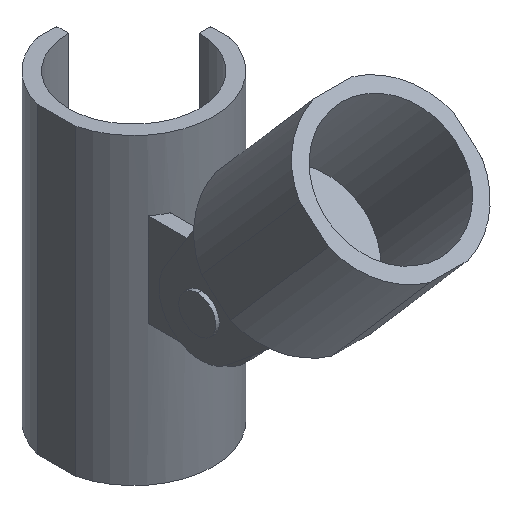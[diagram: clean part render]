
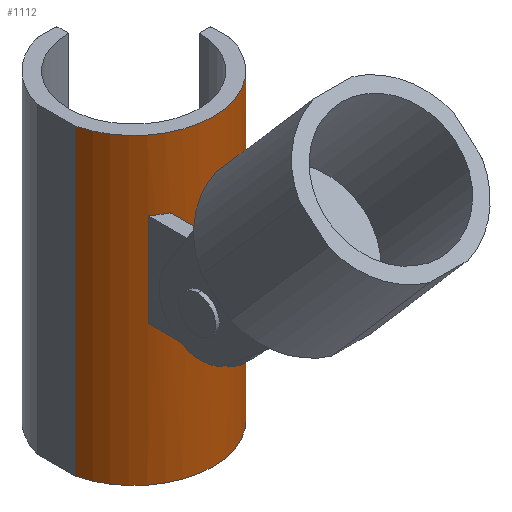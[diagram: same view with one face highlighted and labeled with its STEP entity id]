
A CAD part, isometric view. The second image highlights one B-rep face of the part: STEP entity #1112.
In plain terms, the highlighted cylindrical face has radius 17 mm (diameter 34 mm), a partial arc.
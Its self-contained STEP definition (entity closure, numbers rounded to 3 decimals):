
#21 = CARTESIAN_POINT ( 'NONE',  ( 10.4, -13.448, 10. ) ) ;
#28 = LINE ( 'NONE', #1366, #687 ) ;
#50 = DIRECTION ( 'NONE',  ( 0., 0., 1. ) ) ;
#56 = VERTEX_POINT ( 'NONE', #1358 ) ;
#64 = DIRECTION ( 'NONE',  ( 0., 0., -1. ) ) ;
#71 = DIRECTION ( 'NONE',  ( 0., 0., -1. ) ) ;
#72 = EDGE_CURVE ( 'NONE', #891, #1566, #1669, .T. ) ;
#111 = EDGE_CURVE ( 'NONE', #1364, #1303, #28, .T. ) ;
#146 = ORIENTED_EDGE ( 'NONE', *, *, #627, .T. ) ;
#159 = VERTEX_POINT ( 'NONE', #1842 ) ;
#190 = EDGE_CURVE ( 'NONE', #56, #1303, #1120, .T. ) ;
#212 = LINE ( 'NONE', #809, #856 ) ;
#237 = VERTEX_POINT ( 'NONE', #854 ) ;
#258 = EDGE_LOOP ( 'NONE', ( #1675, #1263, #469, #1428, #1665, #146, #1202, #1192, #1023, #1563, #807, #1468 ) ) ;
#266 = CARTESIAN_POINT ( 'NONE',  ( 16.5, -4.093, -40. ) ) ;
#276 = ORIENTED_EDGE ( 'NONE', *, *, #823, .F. ) ;
#281 = VERTEX_POINT ( 'NONE', #997 ) ;
#291 = LINE ( 'NONE', #895, #850 ) ;
#303 = VERTEX_POINT ( 'NONE', #863 ) ;
#312 = CIRCLE ( 'NONE', #1092, 17. ) ;
#317 = CARTESIAN_POINT ( 'NONE',  ( 10.4, -13.448, 10. ) ) ;
#325 = CARTESIAN_POINT ( 'NONE',  ( -7.4, -15.305, -40. ) ) ;
#333 = CARTESIAN_POINT ( 'NONE',  ( 10.4, -13.448, -10. ) ) ;
#337 = EDGE_CURVE ( 'NONE', #1296, #281, #1014, .T. ) ;
#346 = AXIS2_PLACEMENT_3D ( 'NONE', #1915, #879, #585 ) ;
#347 = DIRECTION ( 'NONE',  ( -1., 0., 0. ) ) ;
#348 = CIRCLE ( 'NONE', #352, 17. ) ;
#352 = AXIS2_PLACEMENT_3D ( 'NONE', #813, #825, #347 ) ;
#360 = CARTESIAN_POINT ( 'NONE',  ( 0., 0., -10. ) ) ;
#371 = DIRECTION ( 'NONE',  ( 0., 0., -1. ) ) ;
#376 = FACE_OUTER_BOUND ( 'NONE', #1477, .T. ) ;
#401 = EDGE_CURVE ( 'NONE', #902, #159, #291, .T. ) ;
#408 = AXIS2_PLACEMENT_3D ( 'NONE', #1118, #371, #520 ) ;
#416 = CIRCLE ( 'NONE', #346, 17. ) ;
#432 = ORIENTED_EDGE ( 'NONE', *, *, #1693, .T. ) ;
#451 = DIRECTION ( 'NONE',  ( 0., 0., -1. ) ) ;
#469 = ORIENTED_EDGE ( 'NONE', *, *, #1728, .T. ) ;
#476 = CARTESIAN_POINT ( 'NONE',  ( -16.5, -4.093, -40. ) ) ;
#516 = CYLINDRICAL_SURFACE ( 'NONE', #886, 17. ) ;
#520 = DIRECTION ( 'NONE',  ( -1., 0., 0. ) ) ;
#527 = CARTESIAN_POINT ( 'NONE',  ( 0., 0., 10. ) ) ;
#567 = AXIS2_PLACEMENT_3D ( 'NONE', #360, #71, #650 ) ;
#585 = DIRECTION ( 'NONE',  ( 1., 0., 0. ) ) ;
#596 = DIRECTION ( 'NONE',  ( 0., 0., 1. ) ) ;
#601 = EDGE_CURVE ( 'NONE', #1039, #237, #312, .T. ) ;
#619 = DIRECTION ( 'NONE',  ( 0., 0., -1. ) ) ;
#627 = EDGE_CURVE ( 'NONE', #1334, #891, #1275, .T. ) ;
#648 = CARTESIAN_POINT ( 'NONE',  ( 0., 0., 10. ) ) ;
#650 = DIRECTION ( 'NONE',  ( 1., 0., 0. ) ) ;
#658 = FACE_BOUND ( 'NONE', #258, .T. ) ;
#666 = DIRECTION ( 'NONE',  ( 0., 0., 1. ) ) ;
#671 = DIRECTION ( 'NONE',  ( -1., 0., 0. ) ) ;
#687 = VECTOR ( 'NONE', #619, 1000. ) ;
#693 = DIRECTION ( 'NONE',  ( 1., 0., 0. ) ) ;
#719 = EDGE_CURVE ( 'NONE', #1566, #1938, #728, .T. ) ;
#728 = CIRCLE ( 'NONE', #1631, 17. ) ;
#775 = LINE ( 'NONE', #1653, #947 ) ;
#807 = ORIENTED_EDGE ( 'NONE', *, *, #401, .F. ) ;
#809 = CARTESIAN_POINT ( 'NONE',  ( 7.4, -15.305, -40. ) ) ;
#813 = CARTESIAN_POINT ( 'NONE',  ( 0., 0., -10. ) ) ;
#823 = EDGE_CURVE ( 'NONE', #281, #303, #416, .T. ) ;
#825 = DIRECTION ( 'NONE',  ( 0., 0., 1. ) ) ;
#850 = VECTOR ( 'NONE', #1304, 1000. ) ;
#854 = CARTESIAN_POINT ( 'NONE',  ( 7.4, -15.305, 10. ) ) ;
#856 = VECTOR ( 'NONE', #666, 1000. ) ;
#863 = CARTESIAN_POINT ( 'NONE',  ( 16.5, -4.093, 25. ) ) ;
#874 = VERTEX_POINT ( 'NONE', #266 ) ;
#879 = DIRECTION ( 'NONE',  ( 0., 0., 1. ) ) ;
#886 = AXIS2_PLACEMENT_3D ( 'NONE', #991, #1581, #1427 ) ;
#891 = VERTEX_POINT ( 'NONE', #1934 ) ;
#895 = CARTESIAN_POINT ( 'NONE',  ( -10.4, -13.448, 10. ) ) ;
#902 = VERTEX_POINT ( 'NONE', #1493 ) ;
#905 = EDGE_CURVE ( 'NONE', #303, #874, #775, .T. ) ;
#914 = VECTOR ( 'NONE', #596, 1000. ) ;
#920 = CARTESIAN_POINT ( 'NONE',  ( -7.4, -15.305, 1. ) ) ;
#947 = VECTOR ( 'NONE', #451, 1000. ) ;
#951 = CIRCLE ( 'NONE', #1946, 17. ) ;
#962 = DIRECTION ( 'NONE',  ( -1., 0., 0. ) ) ;
#991 = CARTESIAN_POINT ( 'NONE',  ( 0., 0., -40. ) ) ;
#997 = CARTESIAN_POINT ( 'NONE',  ( -16.5, -4.093, 25. ) ) ;
#1014 = LINE ( 'NONE', #1335, #914 ) ;
#1023 = ORIENTED_EDGE ( 'NONE', *, *, #1290, .T. ) ;
#1035 = EDGE_CURVE ( 'NONE', #1039, #1334, #1054, .T. ) ;
#1039 = VERTEX_POINT ( 'NONE', #21 ) ;
#1053 = ORIENTED_EDGE ( 'NONE', *, *, #337, .F. ) ;
#1054 = LINE ( 'NONE', #317, #1217 ) ;
#1057 = EDGE_CURVE ( 'NONE', #902, #1364, #1944, .T. ) ;
#1080 = DIRECTION ( 'NONE',  ( 0., 0., 1. ) ) ;
#1083 = EDGE_CURVE ( 'NONE', #159, #1474, #348, .T. ) ;
#1092 = AXIS2_PLACEMENT_3D ( 'NONE', #527, #1545, #693 ) ;
#1112 = ADVANCED_FACE ( 'NONE', ( #376, #658 ), #516, .T. ) ;
#1118 = CARTESIAN_POINT ( 'NONE',  ( 0., 0., 1. ) ) ;
#1120 = CIRCLE ( 'NONE', #408, 17. ) ;
#1127 = AXIS2_PLACEMENT_3D ( 'NONE', #648, #50, #962 ) ;
#1163 = CARTESIAN_POINT ( 'NONE',  ( 7.4, -15.305, -1. ) ) ;
#1192 = ORIENTED_EDGE ( 'NONE', *, *, #719, .T. ) ;
#1202 = ORIENTED_EDGE ( 'NONE', *, *, #72, .T. ) ;
#1208 = LINE ( 'NONE', #325, #1791 ) ;
#1217 = VECTOR ( 'NONE', #1515, 1000. ) ;
#1243 = VECTOR ( 'NONE', #1080, 1000. ) ;
#1263 = ORIENTED_EDGE ( 'NONE', *, *, #190, .F. ) ;
#1275 = CIRCLE ( 'NONE', #567, 17. ) ;
#1279 = ORIENTED_EDGE ( 'NONE', *, *, #905, .F. ) ;
#1290 = EDGE_CURVE ( 'NONE', #1938, #1474, #1208, .T. ) ;
#1296 = VERTEX_POINT ( 'NONE', #476 ) ;
#1303 = VERTEX_POINT ( 'NONE', #920 ) ;
#1304 = DIRECTION ( 'NONE',  ( 0., 0., -1. ) ) ;
#1334 = VERTEX_POINT ( 'NONE', #333 ) ;
#1335 = CARTESIAN_POINT ( 'NONE',  ( -16.5, -4.093, -40. ) ) ;
#1358 = CARTESIAN_POINT ( 'NONE',  ( 7.4, -15.305, 1. ) ) ;
#1364 = VERTEX_POINT ( 'NONE', #1819 ) ;
#1366 = CARTESIAN_POINT ( 'NONE',  ( -7.4, -15.305, -40. ) ) ;
#1376 = DIRECTION ( 'NONE',  ( 0., 0., 1. ) ) ;
#1427 = DIRECTION ( 'NONE',  ( 1., 0., 0. ) ) ;
#1428 = ORIENTED_EDGE ( 'NONE', *, *, #601, .F. ) ;
#1457 = CARTESIAN_POINT ( 'NONE',  ( -7.4, -15.305, -1. ) ) ;
#1468 = ORIENTED_EDGE ( 'NONE', *, *, #1057, .T. ) ;
#1474 = VERTEX_POINT ( 'NONE', #1860 ) ;
#1477 = EDGE_LOOP ( 'NONE', ( #1053, #432, #1279, #276 ) ) ;
#1493 = CARTESIAN_POINT ( 'NONE',  ( -10.4, -13.448, 10. ) ) ;
#1510 = CARTESIAN_POINT ( 'NONE',  ( 0., 0., -40. ) ) ;
#1515 = DIRECTION ( 'NONE',  ( 0., 0., -1. ) ) ;
#1545 = DIRECTION ( 'NONE',  ( 0., 0., -1. ) ) ;
#1563 = ORIENTED_EDGE ( 'NONE', *, *, #1083, .F. ) ;
#1566 = VERTEX_POINT ( 'NONE', #1163 ) ;
#1581 = DIRECTION ( 'NONE',  ( 0., 0., 1. ) ) ;
#1631 = AXIS2_PLACEMENT_3D ( 'NONE', #1719, #64, #671 ) ;
#1641 = DIRECTION ( 'NONE',  ( 0., 0., -1. ) ) ;
#1653 = CARTESIAN_POINT ( 'NONE',  ( 16.5, -4.093, -40. ) ) ;
#1665 = ORIENTED_EDGE ( 'NONE', *, *, #1035, .T. ) ;
#1669 = LINE ( 'NONE', #1806, #1243 ) ;
#1675 = ORIENTED_EDGE ( 'NONE', *, *, #111, .T. ) ;
#1689 = DIRECTION ( 'NONE',  ( 1., 0., 0. ) ) ;
#1693 = EDGE_CURVE ( 'NONE', #1296, #874, #951, .T. ) ;
#1719 = CARTESIAN_POINT ( 'NONE',  ( 0., 0., -1. ) ) ;
#1728 = EDGE_CURVE ( 'NONE', #56, #237, #212, .T. ) ;
#1791 = VECTOR ( 'NONE', #1641, 1000. ) ;
#1806 = CARTESIAN_POINT ( 'NONE',  ( 7.4, -15.305, -40. ) ) ;
#1819 = CARTESIAN_POINT ( 'NONE',  ( -7.4, -15.305, 10. ) ) ;
#1842 = CARTESIAN_POINT ( 'NONE',  ( -10.4, -13.448, -10. ) ) ;
#1860 = CARTESIAN_POINT ( 'NONE',  ( -7.4, -15.305, -10. ) ) ;
#1915 = CARTESIAN_POINT ( 'NONE',  ( 0., 0., 25. ) ) ;
#1934 = CARTESIAN_POINT ( 'NONE',  ( 7.4, -15.305, -10. ) ) ;
#1938 = VERTEX_POINT ( 'NONE', #1457 ) ;
#1944 = CIRCLE ( 'NONE', #1127, 17. ) ;
#1946 = AXIS2_PLACEMENT_3D ( 'NONE', #1510, #1376, #1689 ) ;
